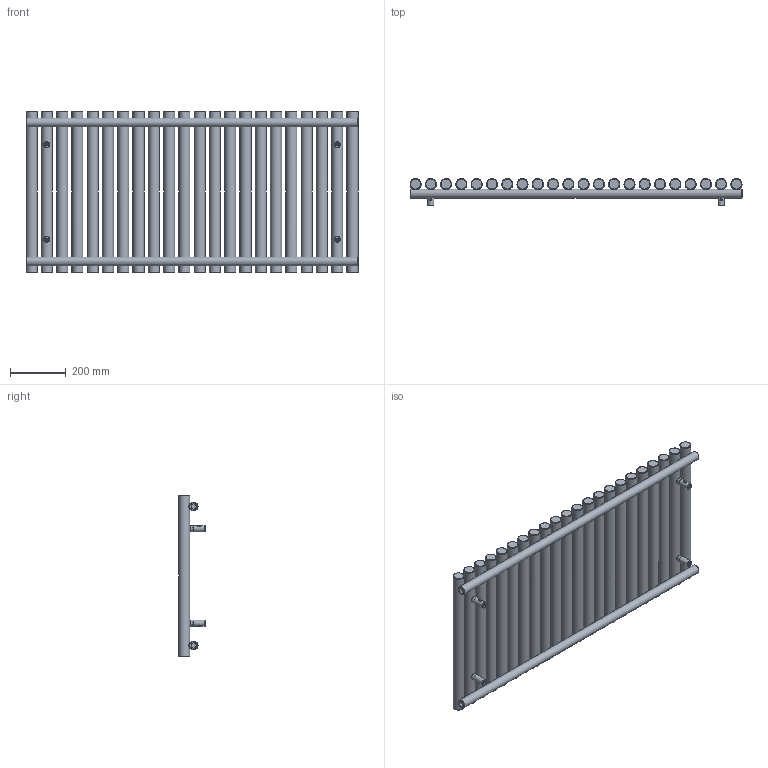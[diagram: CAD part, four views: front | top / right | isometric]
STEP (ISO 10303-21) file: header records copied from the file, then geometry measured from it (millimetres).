
FILE_DESCRIPTION(/* description */ (''),/* implementation_level */ '2;1');
FILE_NAME(/* name */ 'Z:\R\G\P\RGP116 - Grzejniki Geyser\Work\Inventor\Circolo (Rolo V, Rolo H)\ROLO-ROOM\Marketing\Zaokrąglone\WGROR058119-LP-CK-(Z).stp',/* time_stamp */ '2024-01-19T14:02:05+01:00',/* author */ ('NowAd'),/* organization */ (''),/* preprocessor_version */ 'ST-DEVELOPER v17.2',/* originating_system */ 'Autodesk Inventor 2019',/* authorisation */ '');
FILE_SCHEMA (('AUTOMOTIVE_DESIGN { 1 0 10303 214 3 1 1 }'));
Length unit declared in the file: millimetre
Products named in the file (3): WGROR058119-LP-CK-(Z); PGROR058119-LP-CK-(Z); CK-V-fi40 marketing
Assembly tree (5 placements, depth 2):
  WGROR058119-LP-CK-(Z)
    PGROR058119-LP-CK-(Z)
    CK-V-fi40 marketing  x4
Bounding box: 1195 x 96.5 x 580 mm (x, y, z)
Volume: 17984039.9 mm3; surface area: 1904063.8 mm2
Topology: 5 solids, 5 shells, 440 faces, 1064 edges, 712 vertices
Faces by surface type: plane 168, cylinder 92, torus 76, cone 60, bspline 44
Full cylindrical faces by diameter (mm): 4.134 x4, 4.48 x4, 6.4 x4, 10 x4, 12 x4, 15.834 x4, 16 x4, 18.631 x4, 22 x4, 32 x2, 40 x22
Entity records: 15399 total; most frequent: CARTESIAN_POINT 9454, DIRECTION 1229, ORIENTED_EDGE 1166, EDGE_CURVE 583, AXIS2_PLACEMENT_3D 568, VERTEX_POINT 394, EDGE_LOOP 365, CIRCLE 339
